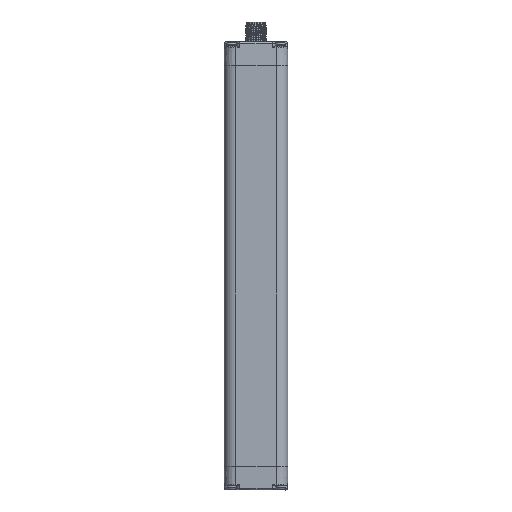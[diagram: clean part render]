
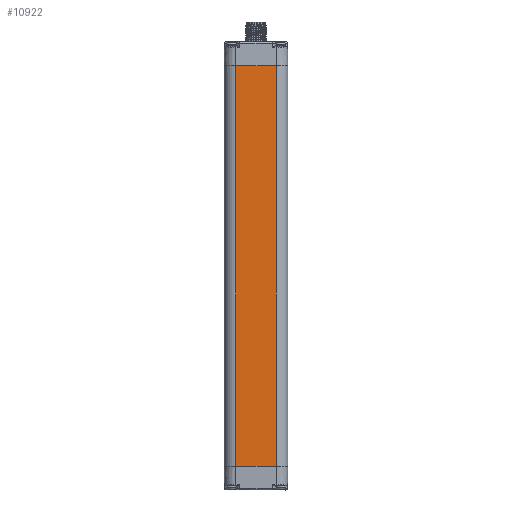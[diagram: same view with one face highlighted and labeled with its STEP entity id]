
A CAD part, front view. The second image highlights one B-rep face of the part: STEP entity #10922.
In plain terms, the highlighted planar face has unit normal (0, -1, 0).
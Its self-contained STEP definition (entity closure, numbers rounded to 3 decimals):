
#8775=B_SPLINE_CURVE_WITH_KNOTS('',3,(#44224,#44225,#44226,#44227),
 .UNSPECIFIED.,.F.,.F.,(4,4),(0.,1.),.UNSPECIFIED.);
#8776=B_SPLINE_CURVE_WITH_KNOTS('',3,(#44231,#44232,#44233,#44234),
 .UNSPECIFIED.,.F.,.F.,(4,4),(0.,1.),.UNSPECIFIED.);
#9665=FACE_OUTER_BOUND('',#15332,.T.);
#10922=ADVANCED_FACE('F5555',(#9665),#11774,.T.);
#11774=PLANE('',#29326);
#12550=LINE('',#42232,#13748);
#12667=LINE('',#44229,#13865);
#13748=VECTOR('',#32691,1.);
#13865=VECTOR('',#33268,1.);
#15332=EDGE_LOOP('',(#19302,#19303,#19304,#19305));
#19302=ORIENTED_EDGE('',*,*,#25854,.F.);
#19303=ORIENTED_EDGE('',*,*,#25853,.T.);
#19304=ORIENTED_EDGE('',*,*,#25435,.F.);
#19305=ORIENTED_EDGE('',*,*,#25855,.T.);
#22913=VERTEX_POINT('',#40695);
#23050=VERTEX_POINT('',#42156);
#23308=VERTEX_POINT('',#44223);
#23309=VERTEX_POINT('',#44230);
#25435=EDGE_CURVE('',#22913,#23050,#12550,.T.);
#25853=EDGE_CURVE('',#23308,#23050,#8775,.T.);
#25854=EDGE_CURVE('',#23308,#23309,#12667,.T.);
#25855=EDGE_CURVE('',#22913,#23309,#8776,.T.);
#29326=AXIS2_PLACEMENT_3D('',#44235,#33269,#33270);
#32691=DIRECTION('',(1.,0.,0.));
#33268=DIRECTION('',(-1.,0.,0.));
#33269=DIRECTION('',(0.,-1.,0.));
#33270=DIRECTION('',(1.,0.,0.));
#40695=CARTESIAN_POINT('',(11.013,-2.493,243.168));
#42156=CARTESIAN_POINT('',(33.013,-2.493,243.168));
#42232=CARTESIAN_POINT('',(22.013,-2.493,243.168));
#44223=CARTESIAN_POINT('',(33.013,-2.493,24.068));
#44224=CARTESIAN_POINT('',(33.013,-2.493,24.068));
#44225=CARTESIAN_POINT('',(33.013,-2.493,97.102));
#44226=CARTESIAN_POINT('',(33.013,-2.493,170.135));
#44227=CARTESIAN_POINT('',(33.013,-2.493,243.168));
#44229=CARTESIAN_POINT('',(4.513,-2.493,24.068));
#44230=CARTESIAN_POINT('',(11.013,-2.493,24.068));
#44231=CARTESIAN_POINT('',(11.013,-2.493,243.168));
#44232=CARTESIAN_POINT('',(11.013,-2.493,170.135));
#44233=CARTESIAN_POINT('',(11.013,-2.493,97.102));
#44234=CARTESIAN_POINT('',(11.013,-2.493,24.068));
#44235=CARTESIAN_POINT('',(4.513,-2.493,-1005.332));
